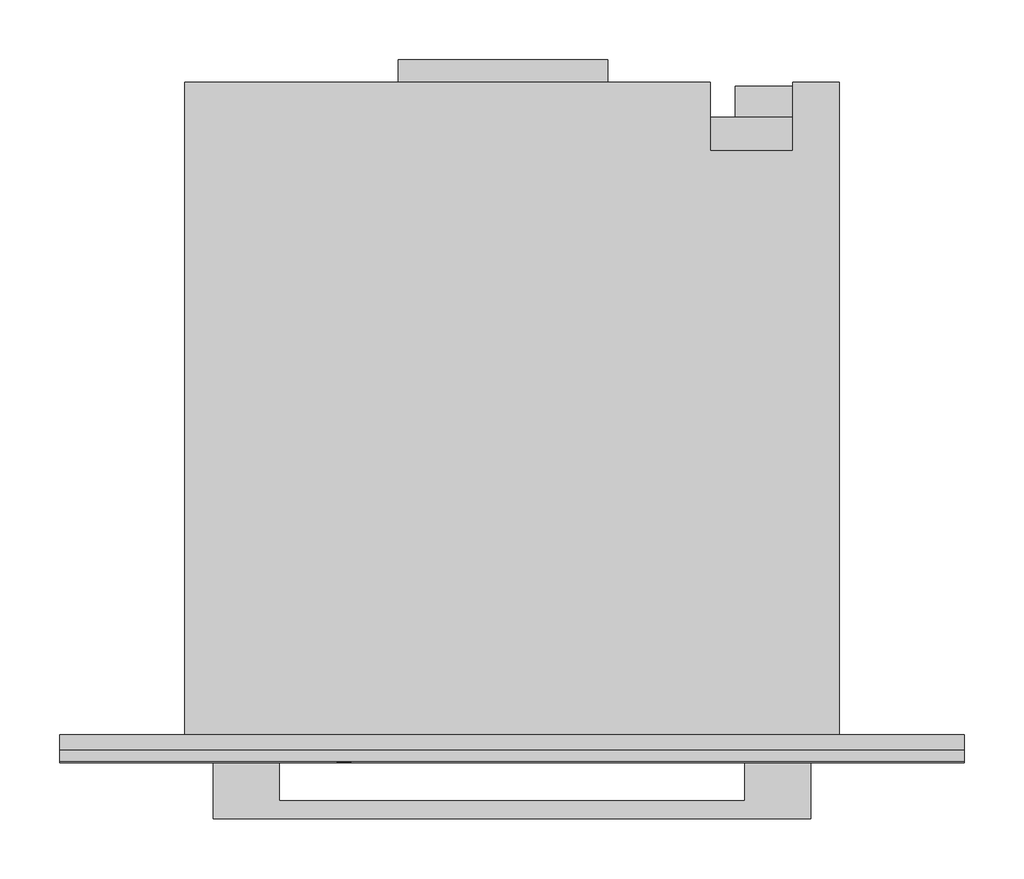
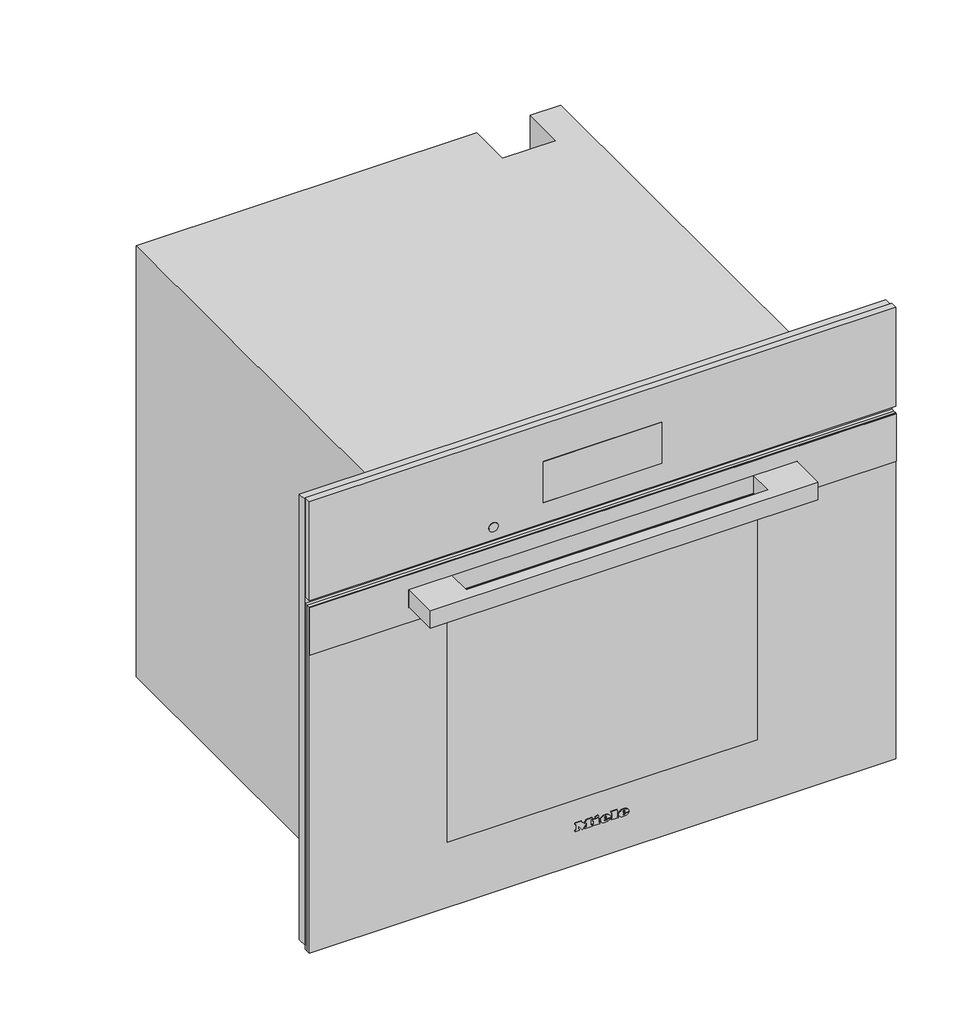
# Not in any storey: 1 proxy.
"""IFC4 building model written with IfcOpenShell, lengths in millimetres."""

import ifcopenshell
import ifcopenshell.guid

model = None  # the IFC model being written
_history = None  # IfcOwnerHistory: only IFC2X3 demands one
_inside = {}  # id of a spatial element -> (the spatial element, [elements in it])
_under = {}  # id of a project, library or spatial element -> (it, [spatial elements below it])
_declared = {}  # id of a project -> (the project, [libraries it declares])
_typed = {}  # id of a type object -> (the type object, [elements of that type])
_made_of = {}  # id of a material, layer set ... -> (it, [elements and type objects made of it])


def new_model(schema):
    """Start an empty IFC model of exactly this schema.

    Asked for "IFC4X3", IfcOpenShell would pick the latest addendum, in which some entities
    have other attributes; the version numbers below select the first issue.
    IFC2X3 requires an IfcOwnerHistory on every rooted entity: one is made here for all.
    """
    global model, _history
    if schema == "IFC4X3":
        model = ifcopenshell.file(schema_version=(4, 3, 0, 0))
    else:
        model = ifcopenshell.file(schema=schema)
    _inside.clear()
    _under.clear()
    _declared.clear()
    _typed.clear()
    _made_of.clear()
    _history = None
    if model.schema == "IFC2X3":
        org = make("IfcOrganization", Name="unknown")
        user = make(
            "IfcPersonAndOrganization",
            ThePerson=make("IfcPerson", FamilyName="unknown"),
            TheOrganization=org,
        )
        app = make(
            "IfcApplication",
            ApplicationDeveloper=org,
            Version="unknown",
            ApplicationFullName="unknown",
            ApplicationIdentifier="unknown",
        )
        _history = make(
            "IfcOwnerHistory",
            OwningUser=user,
            OwningApplication=app,
            ChangeAction="ADDED",
            CreationDate=0,
        )
    return model


def make(cls, **values):
    """One entity of the class cls with the attributes given. An attribute that is None is left unset."""
    return model.create_entity(
        cls, **{name: value for name, value in values.items() if value is not None}
    )


def rooted(cls, **values):
    """An entity with a GlobalId (a new one), such as an element, a storey or a relation."""
    return make(cls, GlobalId=ifcopenshell.guid.new(), OwnerHistory=_history, **values)


def si_unit(unit_type, name, prefix=None):
    """IfcSIUnit, for example si_unit("LENGTHUNIT", "METRE", prefix="MILLI")."""
    return make("IfcSIUnit", UnitType=unit_type, Prefix=prefix, Name=name)


def assignment(units):
    """IfcUnitAssignment: the units of a project."""
    return None if units is None else make("IfcUnitAssignment", Units=units)


def point(xyz):
    """IfcCartesianPoint."""
    return None if xyz is None else make("IfcCartesianPoint", Coordinates=xyz)


def direction(xyz):
    """IfcDirection."""
    return None if xyz is None else make("IfcDirection", DirectionRatios=xyz)


def frame(location, z_axis=None, x_axis=None):
    """IfcAxis2Placement3D, a coordinate frame: its origin and axes. An axis left out is left unset."""
    return make(
        "IfcAxis2Placement3D",
        Location=point(location),
        Axis=direction(z_axis),
        RefDirection=direction(x_axis),
    )


def frame_2d(location, x_axis=None):
    """IfcAxis2Placement2D, a coordinate frame in the plane: its origin and x axis."""
    return make(
        "IfcAxis2Placement2D", Location=point(location), RefDirection=direction(x_axis)
    )


def origin():
    """The frame at (0, 0, 0) with its axes left unset."""
    return frame((0.0, 0.0, 0.0))


def place(relative_to, where):
    """IfcLocalPlacement: puts the frame where relative to a parent placement (None: the world)."""
    return make(
        "IfcLocalPlacement", PlacementRelTo=relative_to, RelativePlacement=where
    )


def context(
    kind, dimensions, precision=None, world=None, true_north=None, identifier=None
):
    """IfcGeometricRepresentationContext, for example the 3D "Model" context."""
    return make(
        "IfcGeometricRepresentationContext",
        ContextIdentifier=identifier,
        ContextType=kind,
        CoordinateSpaceDimension=dimensions,
        Precision=precision,
        WorldCoordinateSystem=world,
        TrueNorth=true_north,
    )


def project(units=None, contexts=None):
    """IfcProject with its units and contexts."""
    return rooted(
        "IfcProject",
        Name="project",
        RepresentationContexts=contexts,
        UnitsInContext=assignment(units),
    )


def spatial(cls, under=None, at=None, **own):
    """A site, building, storey or space (cls), placed at a placement, below another one or the project."""
    s = rooted(cls, ObjectPlacement=at, **own)
    if under is not None:
        _under.setdefault(under.id(), (under, []))[1].append(s)
    return s


def polyline(points):
    """IfcPolyline through the points."""
    return make("IfcPolyline", Points=[point(p) for p in points])


def circle_curve(where, radius):
    """IfcCircle in the frame where."""
    return make("IfcCircle", Position=where, Radius=radius)


def ellipse_curve(where, semi_axis1, semi_axis2):
    """IfcEllipse in the frame where."""
    return make(
        "IfcEllipse", Position=where, SemiAxis1=semi_axis1, SemiAxis2=semi_axis2
    )


def trimmed(basis, trim1, trim2, sense, master):
    """IfcTrimmedCurve: the piece of a basis curve between two trims."""
    return make(
        "IfcTrimmedCurve",
        BasisCurve=basis,
        Trim1=trim1,
        Trim2=trim2,
        SenseAgreement=sense,
        MasterRepresentation=master,
    )


def segment(curve, same_sense, transition):
    """IfcCompositeCurveSegment."""
    return make(
        "IfcCompositeCurveSegment",
        Transition=transition,
        SameSense=same_sense,
        ParentCurve=curve,
    )


def composite_curve(segments, self_intersect=None):
    """IfcCompositeCurve: segments joined end to end."""
    return make("IfcCompositeCurve", Segments=segments, SelfIntersect=self_intersect)


def outline(outer, holes=None, kind="AREA"):
    """IfcArbitraryClosedProfileDef: a profile drawn as a closed curve; with holes, ...WithVoids."""
    if holes is None:
        return make("IfcArbitraryClosedProfileDef", ProfileType=kind, OuterCurve=outer)
    return make(
        "IfcArbitraryProfileDefWithVoids",
        ProfileType=kind,
        OuterCurve=outer,
        InnerCurves=holes,
    )


def extrude(swept, where, along, depth):
    """IfcExtrudedAreaSolid: the profile swept, set in the frame where, extruded along a direction by depth."""
    return make(
        "IfcExtrudedAreaSolid",
        SweptArea=swept,
        Position=where,
        ExtrudedDirection=direction(along),
        Depth=depth,
    )


def faces_of(points, faces, orient=None, outer=None):
    """IfcFace entities. A face is a list of loops; a loop is a list of indices into points, from 0.

    orient and outer hold one flag for each loop. By default every Orientation is true, the
    first loop of a face is its IfcFaceOuterBound and the others are IfcFaceBound.
    """
    made = []
    for i, loops in enumerate(faces):
        bounds = []
        for j, loop in enumerate(loops):
            is_outer = j == 0 if outer is None else outer[i][j]
            bounds.append(
                make(
                    "IfcFaceOuterBound" if is_outer else "IfcFaceBound",
                    Bound=make("IfcPolyLoop", Polygon=[points[k] for k in loop]),
                    Orientation=True if orient is None else orient[i][j],
                )
            )
        made.append(make("IfcFace", Bounds=bounds))
    return made


def faceted_brep(points, faces, orient=None, outer=None, voids=None):
    """IfcFacetedBrep: a solid bounded by flat faces; with voids (closed shells), ...WithVoids."""
    shared = [point(p) for p in points]
    hull = make("IfcClosedShell", CfsFaces=faces_of(shared, faces, orient, outer))
    if voids is None:
        return make("IfcFacetedBrep", Outer=hull)
    return make(
        "IfcFacetedBrepWithVoids",
        Outer=hull,
        Voids=[
            make(cls, CfsFaces=faces_of(shared, fs, o, b)) for cls, fs, o, b in voids
        ],
    )


def shape(context_of_items, identifier, shape_type, items):
    """IfcShapeRepresentation: the items that make up one representation, for example the "Body"."""
    return make(
        "IfcShapeRepresentation",
        ContextOfItems=context_of_items,
        RepresentationIdentifier=identifier,
        RepresentationType=shape_type,
        Items=items,
    )


def source(mapping_origin, context_of_items, identifier, shape_type, items):
    """IfcRepresentationMap: a shape defined once, which mapped items show again and again."""
    return make(
        "IfcRepresentationMap",
        MappingOrigin=mapping_origin,
        MappedRepresentation=shape(context_of_items, identifier, shape_type, items),
    )


def transform(
    local_origin,
    x_axis=None,
    y_axis=None,
    z_axis=None,
    scale=None,
    scale2=None,
    scale3=None,
    uniform=True,
):
    """IfcCartesianTransformationOperator3D, or its non-uniform kind. x_axis, y_axis, z_axis: its Axis1, 2, 3."""
    if uniform:
        return make(
            "IfcCartesianTransformationOperator3D",
            Axis1=direction(x_axis),
            Axis2=direction(y_axis),
            LocalOrigin=point(local_origin),
            Scale=scale,
            Axis3=direction(z_axis),
        )
    return make(
        "IfcCartesianTransformationOperator3DnonUniform",
        Axis1=direction(x_axis),
        Axis2=direction(y_axis),
        LocalOrigin=point(local_origin),
        Scale=scale,
        Axis3=direction(z_axis),
        Scale2=scale2,
        Scale3=scale3,
    )


def mapped(mapping_source, mapping_target):
    """IfcMappedItem: shows the shape of a source again, moved by a transform."""
    return make(
        "IfcMappedItem", MappingSource=mapping_source, MappingTarget=mapping_target
    )


def made_of(thing, what):
    """Note that an element or type object is made of a material, layer set ...; save() writes the relation."""
    if what is not None:
        _made_of.setdefault(what.id(), (what, []))[1].append(thing)
    return thing


def element(
    cls,
    number,
    at=None,
    inside=None,
    cuts=None,
    type_object=None,
    material=None,
    context=None,
    identifier="Body",
    shape_type=None,
    held_by="IfcProductDefinitionShape",
    body=None,
    shapes=None,
    **own,
):
    """One element of the class cls, such as IfcWall. Its Tag is "e" and its number.

    at: its placement. inside: the storey or other place that contains it. cuts: it is an
    opening in that element (IfcRelVoidsElement). A single representation is given by context,
    identifier, shape_type and body (its items); several are given by shapes. held_by: the class
    of the entity that holds the representations. save() writes the other relations.
    """
    e = rooted(cls, Tag="e%d" % number, ObjectPlacement=at, **own)
    if body is not None:
        shapes = [shape(context, identifier, shape_type, body)]
    if shapes is not None:
        e.Representation = make(held_by, Representations=shapes)
    if inside is not None:
        _inside.setdefault(inside.id(), (inside, []))[1].append(e)
    if cuts is not None:
        rooted(
            "IfcRelVoidsElement", RelatingBuildingElement=cuts, RelatedOpeningElement=e
        )
    if type_object is not None:
        _typed.setdefault(type_object.id(), (type_object, []))[1].append(e)
    return made_of(e, material)


def aggregate(whole, parts):
    """IfcRelAggregates: a whole, such as a stair, and the parts it consists of."""
    return rooted("IfcRelAggregates", RelatingObject=whole, RelatedObjects=parts)


def save(model, path):
    """Write the relations noted so far, then the file.

    IfcRelAggregates (storeys below a building ...), IfcRelContainedInSpatialStructure (elements
    in a storey), IfcRelDefinesByType, IfcRelAssociatesMaterial and IfcRelDeclares: one each for
    every whole, place, type object, material and project.
    """
    for whole, parts in _under.values():
        aggregate(whole, parts)
    for where, things in _inside.values():
        rooted(
            "IfcRelContainedInSpatialStructure",
            RelatedElements=things,
            RelatingStructure=where,
        )
    for kind, things in _typed.values():
        rooted("IfcRelDefinesByType", RelatedObjects=things, RelatingType=kind)
    for what, things in _made_of.values():
        rooted("IfcRelAssociatesMaterial", RelatedObjects=things, RelatingMaterial=what)
    for by, libraries in _declared.values():
        rooted("IfcRelDeclares", RelatingContext=by, RelatedDefinitions=libraries)
    model.write(path)


def plane_surface(at):
    """IfcPlane: the flat surface through the origin of the frame at, square to its z axis."""
    return make("IfcPlane", Position=at)


def cylinder_surface(at, radius):
    """IfcCylindricalSurface: all points at the distance radius from the z axis of the frame at."""
    return make("IfcCylindricalSurface", Position=at, Radius=radius)


def revolved_surface(curve, axis_point, axis_direction):
    """IfcSurfaceOfRevolution: the curve turned about the line through axis_point along axis_direction."""
    return make(
        "IfcSurfaceOfRevolution",
        SweptCurve=make("IfcArbitraryOpenProfileDef", ProfileType="CURVE", Curve=curve),
        AxisPosition=make("IfcAxis1Placement", Location=point(axis_point), Axis=direction(axis_direction)),
    )


def extruded_surface(curve, direction_of_extrusion, depth):
    """IfcSurfaceOfLinearExtrusion: the curve pushed along a direction by depth."""
    return make(
        "IfcSurfaceOfLinearExtrusion",
        SweptCurve=make("IfcArbitraryOpenProfileDef", ProfileType="CURVE", Curve=curve),
        ExtrudedDirection=direction(direction_of_extrusion),
        Depth=depth,
    )


def advanced_brep(points, edges, surfaces, faces):
    """IfcAdvancedBrep: a solid bounded by faces that lie on surfaces and meet in shared edges.

    An edge is (start, end): straight between two places in points (the first is 0);
    or (start, end, curve); or (start, end, curve, False) where it runs against its curve.
    A face is (place in surfaces, loops), or (place, loops, False) where it looks against
    its surface's normal. A loop lists edges by number (the first is 1), with a minus sign
    where the edge is run from its end to its start. The first loop is the outer one.
    """
    corners = [point(p) for p in points]
    vertices = [make("IfcVertexPoint", VertexGeometry=c) for c in corners]
    made = []
    for start, end, *more in edges:
        made.append(
            make(
                "IfcEdgeCurve",
                EdgeStart=vertices[start],
                EdgeEnd=vertices[end],
                EdgeGeometry=more[0] if more else make("IfcPolyline", Points=[corners[start], corners[end]]),
                SameSense=more[1] if len(more) > 1 else True,
            )
        )
    hull = []
    for where, loops, *sense in faces:
        bounds = []
        for j, loop in enumerate(loops):
            ring = [make("IfcOrientedEdge", EdgeElement=made[abs(k) - 1], Orientation=k > 0) for k in loop]
            bounds.append(
                make(
                    "IfcFaceOuterBound" if j == 0 else "IfcFaceBound",
                    Bound=make("IfcEdgeLoop", EdgeList=ring),
                    Orientation=True,
                )
            )
        hull.append(make("IfcAdvancedFace", Bounds=bounds, FaceSurface=surfaces[where], SameSense=sense[0] if sense else True))
    return make("IfcAdvancedBrep", Outer=make("IfcClosedShell", CfsFaces=hull))


def specialty_equipment_2287f4bf(model_context):
    return source(origin(), model_context, "Body", "SolidModel", [
        faceted_brep([(378.5, -13.0, 617.0), (-378.5, -13.0, 617.0), (-378.5, -13.0, 9.0), (-272.5, -13.0, 9.0), (-272.5, -13.0, 485.0), (272.5, -13.0, 485.0), (272.5, -13.0, 9.0), (378.5, -13.0, 9.0), (378.5, 0.0, 617.0), (378.5, 0.0, 9.0), (-378.5, 0.0, 9.0), (-378.5, 0.0, 617.0), (231.0, 0.0, 61.0), (231.0, 0.0, 411.0), (-231.0, 0.0, 411.0), (-231.0, 0.0, 61.0), (272.5, -5.0, 9.0), (-272.5, -5.0, 9.0), (-272.5, -5.0, 485.0), (272.5, -5.0, 485.0), (231.0, -5.0, 411.0), (231.0, -5.0, 61.0), (-231.0, -5.0, 61.0), (-231.0, -5.0, 411.0)], [[[0, 1, 2, 3, 4, 5, 6, 7]], [[8, 9, 10, 11], [12, 13, 14, 15]], [[1, 0, 8, 11]], [[2, 1, 11, 10]], [[10, 9, 7, 6, 16, 17, 3, 2]], [[0, 7, 9, 8]], [[18, 19, 5, 4]], [[18, 4, 3, 17]], [[5, 19, 16, 6]], [[19, 18, 17, 16], [20, 21, 22, 23]], [[20, 13, 12, 21]], [[21, 12, 15, 22]], [[22, 15, 14, 23]], [[13, 20, 23, 14]]]),
        extrude(outline(polyline([(-95.0, 565.0), (80.0, 565.0), (80.0, 546.0), (-95.0, 546.0), (-95.0, 565.0)])), frame((0.0, 0.0, 311.0), z_axis=(0.0, 0.0, 1.0), x_axis=(1.0, 0.0, 0.0)), (0.0, 0.0, 1.0), 1.0),
        extrude(outline(polyline([(218.8383288, 522.0), (225.1236409, 522.0), (225.1236409, 511.9492425), (223.8571792, 511.9492425), (223.8571792, 520.7409796), (218.8383288, 520.7409796), (218.8383288, 522.0)])), frame((0.0, 0.0, 272.0), z_axis=(0.0, 0.0, 1.0), x_axis=(1.0, 0.0, 0.0)), (0.0, 0.0, 1.0), 1.0),
        extrude(outline(polyline([(227.0, 522.0), (234.3797826, 522.0), (234.3797826, 511.9503529), (227.15422, 511.9503529), (227.15422, 513.220938), (233.1355215, 513.220938), (233.1355215, 516.1975645), (227.4863097, 516.1975645), (227.4863097, 517.449242), (233.1355215, 517.449242), (233.1355215, 520.7448633), (227.0, 520.7448633), (227.0, 522.0)])), frame((0.0, 0.0, 272.0), z_axis=(0.0, 0.0, 1.0), x_axis=(1.0, 0.0, 0.0)), (0.0, 0.0, 1.0), 1.0),
        extrude(outline(composite_curve([segment(trimmed(circle_curve(frame_2d((227.0, 517.0)), 7.5), [point((219.5, 517.0))], [point((234.5, 517.0))], False, "CARTESIAN"), True, "CONTINUOUS"), segment(trimmed(circle_curve(frame_2d((227.0, 517.0)), 7.5), [point((234.5, 517.0))], [point((219.5, 517.0))], False, "CARTESIAN"), True, "CONTINUOUS")], self_intersect=False)), frame((0.0, 0.0, 273.0), z_axis=(0.0, 0.0, 1.0), x_axis=(1.0, 0.0, 0.0)), (0.0, 0.0, 1.0), 30.0),
        extrude(outline(polyline([(266.0, 517.0), (187.0, 517.0), (187.0, 543.0), (266.0, 543.0), (266.0, 517.0)])), frame((0.0, 0.0, 303.0), z_axis=(0.0, 0.0, 1.0), x_axis=(1.0, 0.0, 0.0)), (0.0, 0.0, 1.0), 111.0),
        faceted_brep([(-274.0, 546.0, 0.0), (-274.0, 546.0, 588.0), (166.0, 546.0, 588.0), (166.0, 546.0, 0.0), (235.0, 546.0, 588.0), (274.0, 546.0, 588.0), (274.0, 546.0, 478.0), (235.0, 546.0, 478.0), (274.0, 0.0, 588.0), (-274.0, 0.0, 588.0), (-274.0, 0.0, 0.0), (274.0, 0.0, 0.0), (231.0, 0.0, 411.0), (231.0, 0.0, 61.0), (-231.0, 0.0, 61.0), (-231.0, 0.0, 411.0), (235.0, 489.0, 588.0), (166.0, 489.0, 588.0), (166.0, 517.0, 0.0), (274.0, 517.0, 0.0), (274.0, 517.0, 478.0), (231.0, 411.0, 411.0), (-231.0, 411.0, 411.0), (-231.0, 411.0, 61.0), (231.0, 411.0, 61.0), (235.0, 489.0, 477.0), (166.0, 489.0, 477.0), (166.0, 517.0, 477.0), (235.0, 517.0, 477.0), (235.0, 517.0, 478.0)], [[[0, 1, 2, 3]], [[4, 5, 6, 7]], [[8, 9, 10, 11], [12, 13, 14, 15]], [[9, 8, 5, 4, 16, 17, 2, 1]], [[1, 0, 10, 9]], [[11, 10, 0, 3, 18, 19]], [[8, 11, 19, 20, 6, 5]], [[21, 22, 23, 24]], [[21, 24, 13, 12]], [[24, 23, 14, 13]], [[23, 22, 15, 14]], [[22, 21, 12, 15]], [[16, 25, 26, 17]], [[17, 26, 27, 18, 3, 2]], [[26, 25, 28, 27]], [[25, 16, 4, 7, 29, 28]], [[29, 20, 19, 18, 27, 28]], [[20, 29, 7, 6]]]),
        advanced_brep(
        [(26.2998, -23.0, 52.7018), (26.2998, -23.0, 53.8532), (33.9264, -23.0, 53.8532), (20.6568, -23.0, 53.8532), (23.7918, -23.0, 50.0), (33.7326, -23.0, 52.7018), (30.2898, -23.0, 52.7018), (27.5766, -23.0, 51.425), (26.2998, -23.0, 55.3124), (26.2998, -23.0, 56.555), (28.2492, -23.0, 56.555), (28.2492, -23.0, 55.3124), (26.2998, -22.0, 52.7018), (27.5766, -22.0, 51.425), (30.2898, -22.0, 52.7018), (33.7326, -22.0, 52.7018), (23.7918, -22.0, 50.0), (20.6568, -22.0, 53.8532), (33.9264, -22.0, 53.8532), (26.2998, -22.0, 53.8532), (26.2998, -22.0, 55.3124), (28.2492, -22.0, 55.3124), (28.2492, -22.0, 56.555), (26.2998, -22.0, 56.555)],
        [
            (0, 1),
            (1, 2),
            (2, 3, ellipse_curve(frame((27.2916, -23.0, 53.8532), z_axis=(0.0, -1.0, 0.0), x_axis=(-1.0, 0.0, 0.0)), 6.6348, 5.4834)),
            (3, 4, circle_curve(frame((25.0686622, -23.0, 54.2408), z_axis=(0.0, -1.0, 0.0), x_axis=(0.0, 0.0, -1.0)), 4.4288556)),
            (4, 5, circle_curve(frame((27.1587808, -23.0, 57.2504), z_axis=(0.0, -1.0, 0.0), x_axis=(0.0, 0.0, -1.0)), 7.9940516)),
            (5, 6),
            (6, 7, circle_curve(frame((28.1338588, -23.0, 53.762), z_axis=(0.0, 1.0, 0.0), x_axis=(0.0, 0.0, -1.0)), 2.4025208)),
            (7, 0, circle_curve(frame((27.5766, -23.0, 52.7018), z_axis=(0.0, 1.0, 0.0), x_axis=(0.0, 0.0, -1.0)), 1.2768)),
            (8, 9),
            (9, 10, circle_curve(frame((27.2745, -23.0, 56.555), z_axis=(0.0, 1.0, 0.0), x_axis=(0.0, 0.0, -1.0)), 0.9747)),
            (10, 11),
            (11, 8),
            (12, 13, circle_curve(frame((27.5766, -22.0, 52.7018), z_axis=(0.0, -1.0, 0.0), x_axis=(0.0, 0.0, -1.0)), 1.2768)),
            (13, 14, circle_curve(frame((28.1338588, -22.0, 53.762), z_axis=(0.0, -1.0, 0.0), x_axis=(0.0, 0.0, -1.0)), 2.4025208)),
            (14, 15),
            (15, 16, circle_curve(frame((27.1587808, -22.0, 57.2504), z_axis=(0.0, 1.0, 0.0), x_axis=(0.0, 0.0, -1.0)), 7.9940516)),
            (16, 17, circle_curve(frame((25.0686622, -22.0, 54.2408), z_axis=(0.0, 1.0, 0.0), x_axis=(0.0, 0.0, -1.0)), 4.4288556)),
            (17, 18, ellipse_curve(frame((27.2916, -22.0, 53.8532), z_axis=(0.0, 1.0, 0.0), x_axis=(-1.0, 0.0, 0.0)), 6.6348, 5.4834)),
            (18, 19),
            (19, 12),
            (20, 21),
            (21, 22),
            (22, 23, circle_curve(frame((27.2745, -22.0, 56.555), z_axis=(0.0, -1.0, 0.0), x_axis=(0.0, 0.0, -1.0)), 0.9747)),
            (23, 20),
            (0, 12),
            (19, 1),
            (18, 2),
            (5, 15),
            (14, 6),
            (17, 3),
            (13, 7),
            (16, 4),
            (8, 20),
            (23, 9),
            (22, 10),
            (21, 11),
        ],
        [
            plane_surface(frame((26.2998, -23.0, 53.8532), z_axis=(0.0, -1.0, 0.0), x_axis=(0.0, 0.0, 1.0))),
            plane_surface(frame((26.2998, -22.0, 53.8532), z_axis=(0.0, 1.0, 0.0), x_axis=(0.0, 0.0, -1.0))),
            plane_surface(frame((26.2998, -23.0, 52.7018), z_axis=(1.0, 0.0, 0.0), x_axis=(0.0, 1.0, 0.0))),
            plane_surface(frame((26.2998, -23.0, 53.8532), z_axis=(0.0, 0.0, -1.0), x_axis=(0.0, 1.0, 0.0))),
            plane_surface(frame((33.7326, -23.0, 52.7018), z_axis=(0.0, 0.0, 1.0), x_axis=(0.0, 1.0, 0.0))),
            extruded_surface(trimmed(ellipse_curve(frame((27.2916, -21.0, 53.8532), z_axis=(0.0, -1.0, 0.0), x_axis=(-1.0, 0.0, 0.0)), 6.6348, 5.4834), [point((33.9264, -21.0, 53.8532))], [point((20.6568, -21.0, 53.8532))], True, "CARTESIAN"), (0.0, -1.0, 0.0), 1.0),
            revolved_surface(polyline([(28.1338588, -22.0, 51.3594792), (28.1338588, -23.0, 51.3594792)]), (28.1338588, -22.0, 53.762), (0.0, 1.0, 0.0)),
            revolved_surface(polyline([(27.5766, -22.0, 51.425), (27.5766, -23.0, 51.425)]), (27.5766, -22.0, 52.7018), (0.0, 1.0, 0.0)),
            cylinder_surface(frame((25.0686622, -22.0, 54.2408), z_axis=(0.0, -1.0, 0.0), x_axis=(0.0, 0.0, -1.0)), 4.4288556),
            cylinder_surface(frame((27.1587808, -22.0, 57.2504), z_axis=(0.0, -1.0, 0.0), x_axis=(0.0, 0.0, -1.0)), 7.9940516),
            plane_surface(frame((26.2998, -23.0, 55.3124), z_axis=(1.0, 0.0, 0.0), x_axis=(0.0, 1.0, 0.0))),
            revolved_surface(polyline([(27.2745, -22.0, 55.5803), (27.2745, -23.0, 55.5803)]), (27.2745, -22.0, 56.555), (0.0, 1.0, 0.0)),
            plane_surface(frame((28.2492, -23.0, 56.555), z_axis=(-1.0, 0.0, 0.0), x_axis=(0.0, 1.0, 0.0))),
            plane_surface(frame((28.2492, -23.0, 55.3124), z_axis=(0.0, 0.0, 1.0), x_axis=(0.0, 1.0, 0.0))),
        ],
        [
            (0, [[1, 2, 3, 4, 5, 6, 7, 8], [9, 10, 11, 12]]),
            (1, [[13, 14, 15, 16, 17, 18, 19, 20], [21, 22, 23, 24]]),
            (2, [[-1, 25, -20, 26]]),
            (3, [[-2, -26, -19, 27]]),
            (4, [[-6, 28, -15, 29]]),
            (5, [[-3, -27, -18, 30]]),
            (6, [[-7, -29, -14, 31]]),
            (7, [[-8, -31, -13, -25]]),
            (8, [[-4, -30, -17, 32]]),
            (9, [[-5, -32, -16, -28]]),
            (10, [[-9, 33, -24, 34]]),
            (11, [[-10, -34, -23, 35]]),
            (12, [[-11, -35, -22, 36]]),
            (13, [[-12, -36, -21, -33]]),
        ],
    ),
        advanced_brep(
        [(2.508, -23.0, 52.7018), (2.508, -23.0, 53.8532), (10.1346, -23.0, 53.8532), (-3.135, -23.0, 53.8532), (0.0, -23.0, 50.0), (9.9408, -23.0, 52.7018), (6.498, -23.0, 52.7018), (3.7848, -23.0, 51.425), (2.508, -23.0, 55.3124), (2.508, -23.0, 56.555), (4.4574, -23.0, 56.555), (4.4574, -23.0, 55.3124), (2.508, -22.0, 52.7018), (3.7848, -22.0, 51.425), (6.498, -22.0, 52.7018), (9.9408, -22.0, 52.7018), (0.0, -22.0, 50.0), (-3.135, -22.0, 53.8532), (10.1346, -22.0, 53.8532), (2.508, -22.0, 53.8532), (2.508, -22.0, 55.3124), (4.4574, -22.0, 55.3124), (4.4574, -22.0, 56.555), (2.508, -22.0, 56.555)],
        [
            (0, 1),
            (1, 2),
            (2, 3, ellipse_curve(frame((3.4998, -23.0, 53.8532), z_axis=(0.0, -1.0, 0.0), x_axis=(-1.0, 0.0, 0.0)), 6.6348, 5.4834)),
            (3, 4, circle_curve(frame((1.2768622, -23.0, 54.2408), z_axis=(0.0, -1.0, 0.0), x_axis=(0.0, 0.0, -1.0)), 4.4288556)),
            (4, 5, circle_curve(frame((3.3669808, -23.0, 57.2504), z_axis=(0.0, -1.0, 0.0), x_axis=(0.0, 0.0, -1.0)), 7.9940516)),
            (5, 6),
            (6, 7, circle_curve(frame((4.3420588, -23.0, 53.762), z_axis=(0.0, 1.0, 0.0), x_axis=(0.0, 0.0, -1.0)), 2.4025208)),
            (7, 0, circle_curve(frame((3.7848, -23.0, 52.7018), z_axis=(0.0, 1.0, 0.0), x_axis=(0.0, 0.0, -1.0)), 1.2768)),
            (8, 9),
            (9, 10, circle_curve(frame((3.4827, -23.0, 56.555), z_axis=(0.0, 1.0, 0.0), x_axis=(0.0, 0.0, -1.0)), 0.9747)),
            (10, 11),
            (11, 8),
            (12, 13, circle_curve(frame((3.7848, -22.0, 52.7018), z_axis=(0.0, -1.0, 0.0), x_axis=(0.0, 0.0, -1.0)), 1.2768)),
            (13, 14, circle_curve(frame((4.3420588, -22.0, 53.762), z_axis=(0.0, -1.0, 0.0), x_axis=(0.0, 0.0, -1.0)), 2.4025208)),
            (14, 15),
            (15, 16, circle_curve(frame((3.3669808, -22.0, 57.2504), z_axis=(0.0, 1.0, 0.0), x_axis=(0.0, 0.0, -1.0)), 7.9940516)),
            (16, 17, circle_curve(frame((1.2768622, -22.0, 54.2408), z_axis=(0.0, 1.0, 0.0), x_axis=(0.0, 0.0, -1.0)), 4.4288556)),
            (17, 18, ellipse_curve(frame((3.4998, -22.0, 53.8532), z_axis=(0.0, 1.0, 0.0), x_axis=(-1.0, 0.0, 0.0)), 6.6348, 5.4834)),
            (18, 19),
            (19, 12),
            (20, 21),
            (21, 22),
            (22, 23, circle_curve(frame((3.4827, -22.0, 56.555), z_axis=(0.0, -1.0, 0.0), x_axis=(0.0, 0.0, -1.0)), 0.9747)),
            (23, 20),
            (0, 12),
            (19, 1),
            (18, 2),
            (5, 15),
            (14, 6),
            (17, 3),
            (13, 7),
            (16, 4),
            (8, 20),
            (23, 9),
            (22, 10),
            (21, 11),
        ],
        [
            plane_surface(frame((2.508, -23.0, 53.8532), z_axis=(0.0, -1.0, 0.0), x_axis=(0.0, 0.0, 1.0))),
            plane_surface(frame((2.508, -22.0, 53.8532), z_axis=(0.0, 1.0, 0.0), x_axis=(0.0, 0.0, -1.0))),
            plane_surface(frame((2.508, -23.0, 52.7018), z_axis=(1.0, 0.0, 0.0), x_axis=(0.0, 1.0, 0.0))),
            plane_surface(frame((2.508, -23.0, 53.8532), z_axis=(0.0, 0.0, -1.0), x_axis=(0.0, 1.0, 0.0))),
            plane_surface(frame((9.9408, -23.0, 52.7018), z_axis=(0.0, 0.0, 1.0), x_axis=(0.0, 1.0, 0.0))),
            extruded_surface(trimmed(ellipse_curve(frame((3.4998, -21.0, 53.8532), z_axis=(0.0, -1.0, 0.0), x_axis=(-1.0, 0.0, 0.0)), 6.6348, 5.4834), [point((10.1346, -21.0, 53.8532))], [point((-3.135, -21.0, 53.8532))], True, "CARTESIAN"), (0.0, -1.0, 0.0), 1.0),
            revolved_surface(polyline([(4.3420588, -22.0, 51.3594792), (4.3420588, -23.0, 51.3594792)]), (4.3420588, -22.0, 53.762), (0.0, 1.0, 0.0)),
            revolved_surface(polyline([(3.7848, -22.0, 51.425), (3.7848, -23.0, 51.425)]), (3.7848, -22.0, 52.7018), (0.0, 1.0, 0.0)),
            cylinder_surface(frame((1.2768622, -22.0, 54.2408), z_axis=(0.0, -1.0, 0.0), x_axis=(0.0, 0.0, -1.0)), 4.4288556),
            cylinder_surface(frame((3.3669808, -22.0, 57.2504), z_axis=(0.0, -1.0, 0.0), x_axis=(0.0, 0.0, -1.0)), 7.9940516),
            plane_surface(frame((2.508, -23.0, 55.3124), z_axis=(1.0, 0.0, 0.0), x_axis=(0.0, 1.0, 0.0))),
            revolved_surface(polyline([(3.4827, -22.0, 55.5803), (3.4827, -23.0, 55.5803)]), (3.4827, -22.0, 56.555), (0.0, 1.0, 0.0)),
            plane_surface(frame((4.4574, -23.0, 56.555), z_axis=(-1.0, 0.0, 0.0), x_axis=(0.0, 1.0, 0.0))),
            plane_surface(frame((4.4574, -23.0, 55.3124), z_axis=(0.0, 0.0, 1.0), x_axis=(0.0, 1.0, 0.0))),
        ],
        [
            (0, [[1, 2, 3, 4, 5, 6, 7, 8], [9, 10, 11, 12]]),
            (1, [[13, 14, 15, 16, 17, 18, 19, 20], [21, 22, 23, 24]]),
            (2, [[-1, 25, -20, 26]]),
            (3, [[-2, -26, -19, 27]]),
            (4, [[-6, 28, -15, 29]]),
            (5, [[-3, -27, -18, 30]]),
            (6, [[-7, -29, -14, 31]]),
            (7, [[-8, -31, -13, -25]]),
            (8, [[-4, -30, -17, 32]]),
            (9, [[-5, -32, -16, -28]]),
            (10, [[-9, 33, -24, 34]]),
            (11, [[-10, -34, -23, 35]]),
            (12, [[-11, -35, -22, 36]]),
            (13, [[-12, -36, -21, -33]]),
        ],
    ),
        extrude(outline(polyline([(60.7274, -9.9522), (58.8806, -9.0858), (60.6818, -5.2212), (62.5286, -6.0762), (60.7274, -9.9522)])), frame((0.0, -23.0, 0.0), z_axis=(0.0, 1.0, 0.0), x_axis=(0.0, 0.0, 1.0)), (0.0, 0.0, 1.0), 1.0),
        extrude(outline(polyline([(58.6298, -12.768), (56.5892, -12.768), (56.5892, -11.4114), (51.9152, -11.4114), (51.9152, -12.768), (50.0, -12.768), (50.0, -3.7734), (51.9152, -3.7734), (51.9152, -5.0958), (58.6298, -5.0958), (58.6298, -12.768)])), frame((0.0, -23.0, 0.0), z_axis=(0.0, 1.0, 0.0), x_axis=(0.0, 0.0, 1.0)), (0.0, 0.0, 1.0), 1.0),
        extrude(outline(polyline([(59.5418, 10.773), (59.5418, 12.141), (51.9152, 12.141), (51.9152, 10.773), (50.0, 10.773), (50.0, 20.0184), (51.9152, 20.0184), (51.9152, 18.6162), (61.4, 18.6162), (61.4, 10.773), (59.5418, 10.773)])), frame((0.0, -23.0, 0.0), z_axis=(0.0, 1.0, 0.0), x_axis=(0.0, 0.0, 1.0)), (0.0, 0.0, 1.0), 1.0),
        extrude(outline(polyline([(59.5418, -35.4882), (59.5418, -34.1088), (51.9152, -34.1088), (51.9152, -35.4882), (50.0, -35.4882), (50.0, -30.4722), (51.9152, -30.4722), (51.9152, -31.8402), (56.7429247, -31.8402), (50.0, -26.7444), (56.9402223, -21.6258), (51.9152, -21.6258), (51.9152, -23.028), (50.0, -23.028), (50.0, -13.9308), (51.9152, -13.9308), (51.9152, -15.3786), (59.5418, -15.3786), (59.5418, -13.9308), (61.4, -13.9308), (61.4, -20.8734), (57.125, -24.2022), (61.4, -27.5424), (61.4, -35.4882), (59.5418, -35.4882)])), frame((0.0, -23.0, 0.0), z_axis=(0.0, 1.0, 0.0), x_axis=(0.0, 0.0, 1.0)), (0.0, 0.0, 1.0), 1.0),
        extrude(outline(composite_curve([segment(trimmed(circle_curve(frame_2d((502.0, -140.5745637)), 6.0), [point((502.0, -146.5745637))], [point((502.0, -134.5745637))], False, "CARTESIAN"), True, "CONTINUOUS"), segment(trimmed(circle_curve(frame_2d((502.0, -140.5745637)), 6.0), [point((502.0, -134.5745637))], [point((502.0, -146.5745637))], False, "CARTESIAN"), True, "CONTINUOUS")], self_intersect=False)), frame((0.0, -22.5, 0.0), z_axis=(0.0, 1.0, 0.0), x_axis=(0.0, 0.0, 1.0)), (0.0, 0.0, 1.0), 1.0),
        extrude(outline(polyline([(-76.5, -21.0), (76.5, -21.0), (76.5, -22.0), (-76.5, -22.0), (-76.5, -21.0)])), frame((0.0, 0.0, 513.0), z_axis=(0.0, 0.0, 1.0), x_axis=(1.0, 0.0, 0.0)), (0.0, 0.0, 1.0), 56.0),
        faceted_brep([(378.5, -22.0, 620.0), (-378.5, -22.0, 620.0), (-378.5, -22.0, 485.0), (378.5, -22.0, 485.0), (76.5, -22.0, 569.0), (76.5, -22.0, 513.0), (-76.5, -22.0, 513.0), (-76.5, -22.0, 569.0), (378.5, -13.0, 620.0), (378.5, -13.0, 485.0), (-378.5, -13.0, 485.0), (-378.5, -13.0, 620.0), (76.5, -21.0, 569.0), (-76.5, -21.0, 569.0), (-76.5, -21.0, 513.0), (76.5, -21.0, 513.0)], [[[0, 1, 2, 3], [4, 5, 6, 7]], [[8, 9, 10, 11]], [[1, 0, 8, 11]], [[2, 1, 11, 10]], [[3, 2, 10, 9]], [[0, 3, 9, 8]], [[12, 13, 14, 15]], [[12, 15, 5, 4]], [[15, 14, 6, 5]], [[14, 13, 7, 6]], [[13, 12, 4, 7]]]),
        extrude(outline(polyline([(200.0, -22.0), (-200.0, -22.0), (-200.0, -18.0), (200.0, -18.0), (200.0, -22.0)])), frame((0.0, 0.0, 92.5), z_axis=(0.0, 0.0, 1.0), x_axis=(1.0, 0.0, 0.0)), (0.0, 0.0, 1.0), 300.0),
        extrude(outline(polyline([(476.0, 378.5), (476.0, -378.5), (4.0, -378.5), (4.0, 378.5), (476.0, 378.5)]), holes=[polyline([(392.5, -200.0), (392.5, 200.0), (92.5, 200.0), (92.5, -200.0), (392.5, -200.0)])]), frame((0.0, -22.0, 0.0), z_axis=(0.0, 1.0, 0.0), x_axis=(0.0, 0.0, 1.0)), (0.0, 0.0, 1.0), 4.0),
        extrude(outline(polyline([(476.0, 378.5), (476.0, -378.5), (411.0, -378.5), (411.0, 378.5), (476.0, 378.5)]), holes=[polyline([(456.0, -250.5), (456.0, 250.5), (431.0, 250.5), (431.0, -250.5), (456.0, -250.5)])]), frame((0.0, -23.3, 0.0), z_axis=(0.0, 1.0, 0.0), x_axis=(0.0, 0.0, 1.0)), (0.0, 0.0, 1.0), 1.3),
        extrude(outline(polyline([(-250.0, -70.3), (-250.0, -22.0), (-195.0, -22.0), (-195.0, -55.3), (195.0, -55.3), (195.0, -22.0), (250.0, -22.0), (250.0, -70.3), (-250.0, -70.3)])), frame((0.0, 0.0, 431.5), z_axis=(0.0, 0.0, 1.0), x_axis=(1.0, 0.0, 0.0)), (0.0, 0.0, 1.0), 24.0),
        extrude(outline(polyline([(378.5, -18.0), (-378.5, -18.0), (-378.5, -13.0), (378.5, -13.0), (378.5, -18.0)])), frame((0.0, 0.0, 4.0), z_axis=(0.0, 0.0, 1.0), x_axis=(1.0, 0.0, 0.0)), (0.0, 0.0, 1.0), 472.0),
    ])


model = new_model("IFC4")

# Units and contexts
model_context = context("Model", 3, world=origin())
ifc_project = project(units=[si_unit("LENGTHUNIT", "METRE", prefix="MILLI")], contexts=[model_context])

# Site, building
site = spatial("IfcSite", under=ifc_project)
building = spatial("IfcBuilding", under=site)

# Proxy
placement = place(None, origin())
specialty_equipment_shape = specialty_equipment_2287f4bf(model_context)
element("IfcBuildingElementProxy", 1, Name="11876350_USA_DGC7880_EDST-CLST : 23788043_USA_11876350_DGC7880_EDST-CLST", ObjectType="11876350_USA_DGC7880_EDST-CLST : 23788043_USA_11876350_DGC7880_EDST-CLST", at=placement, inside=building, context=model_context, shape_type="MappedRepresentation", body=[
    mapped(specialty_equipment_shape, transform((0.0, 0.0, 0.0), x_axis=(1.0, 0.0, 0.0), y_axis=(0.0, 1.0, 0.0), z_axis=(0.0, 0.0, 1.0))),
])

save(model, "model.ifc")
